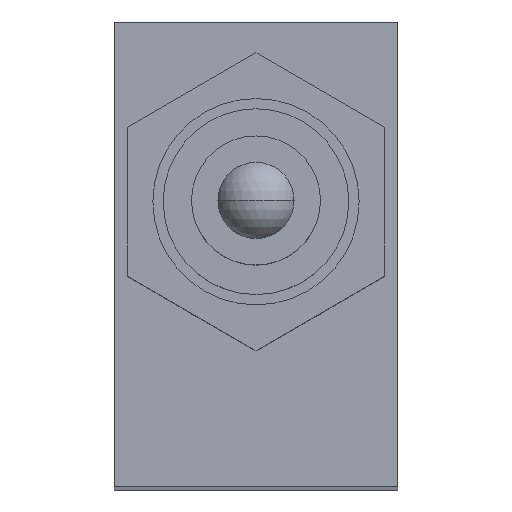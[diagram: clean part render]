
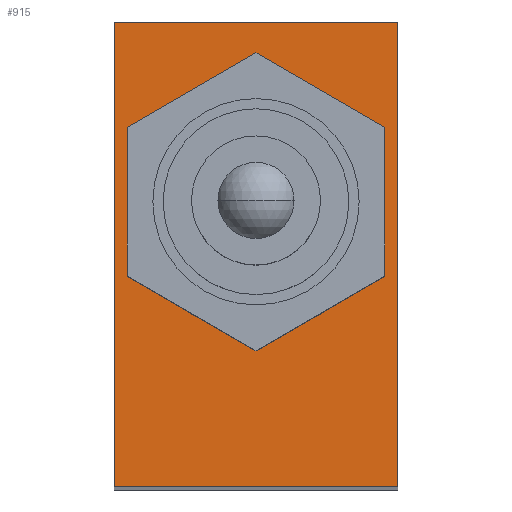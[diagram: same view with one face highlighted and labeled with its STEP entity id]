
A CAD part, top view. The second image highlights one B-rep face of the part: STEP entity #915.
In plain terms, the highlighted planar face has unit normal (0, 0, 1).
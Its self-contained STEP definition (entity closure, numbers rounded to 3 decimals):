
#18 = VERTEX_POINT ( 'NONE', #47 ) ;
#19 = VERTEX_POINT ( 'NONE', #49 ) ;
#25 = VERTEX_POINT ( 'NONE', #516 ) ;
#27 = VERTEX_POINT ( 'NONE', #588 ) ;
#47 = CARTESIAN_POINT ( 'NONE',  ( 5.5, 7., -48.5 ) ) ;
#49 = CARTESIAN_POINT ( 'NONE',  ( 5.5, -11., -48.5 ) ) ;
#181 = CARTESIAN_POINT ( 'NONE',  ( -5.5, 7., -48.5 ) ) ;
#182 = DIRECTION ( 'NONE',  ( 0., -1., 0. ) ) ;
#235 = EDGE_CURVE ( 'NONE', #515, #517, #1324, .T. ) ;
#251 = EDGE_CURVE ( 'NONE', #18, #27, #1336, .T. ) ;
#272 = EDGE_CURVE ( 'NONE', #18, #19, #1310, .T. ) ;
#275 = EDGE_CURVE ( 'NONE', #517, #515, #1234, .T. ) ;
#284 = EDGE_CURVE ( 'NONE', #19, #25, #1260, .T. ) ;
#312 = EDGE_CURVE ( 'NONE', #27, #25, #1142, .T. ) ;
#459 = CARTESIAN_POINT ( 'NONE',  ( 5., 0., -48.5 ) ) ;
#467 = CARTESIAN_POINT ( 'NONE',  ( -5., 0., -48.5 ) ) ;
#509 = PLANE ( 'NONE',  #1060 ) ;
#510 = CARTESIAN_POINT ( 'NONE',  ( 5.5, 7., -48.5 ) ) ;
#515 = VERTEX_POINT ( 'NONE', #467 ) ;
#516 = CARTESIAN_POINT ( 'NONE',  ( -5.5, -11., -48.5 ) ) ;
#517 = VERTEX_POINT ( 'NONE', #459 ) ;
#549 = CARTESIAN_POINT ( 'NONE',  ( 0., 0., -48.5 ) ) ;
#550 = DIRECTION ( 'NONE',  ( 0., 0., -1. ) ) ;
#551 = DIRECTION ( 'NONE',  ( -1., 0., 0. ) ) ;
#583 = CARTESIAN_POINT ( 'NONE',  ( 5.5, 7., -48.5 ) ) ;
#584 = DIRECTION ( 'NONE',  ( -1., 0., 0. ) ) ;
#588 = CARTESIAN_POINT ( 'NONE',  ( -5.5, 7., -48.5 ) ) ;
#784 = CARTESIAN_POINT ( 'NONE',  ( 0., 0., -48.5 ) ) ;
#789 = CARTESIAN_POINT ( 'NONE',  ( 5.5, 7., -48.5 ) ) ;
#790 = DIRECTION ( 'NONE',  ( 0., -1., 0. ) ) ;
#797 = DIRECTION ( 'NONE',  ( 0., 0., -1. ) ) ;
#798 = DIRECTION ( 'NONE',  ( -1., 0., 0. ) ) ;
#817 = CARTESIAN_POINT ( 'NONE',  ( 5.5, -11., -48.5 ) ) ;
#818 = DIRECTION ( 'NONE',  ( -1., 0., 0. ) ) ;
#824 = DIRECTION ( 'NONE',  ( 0., 0., -1. ) ) ;
#825 = DIRECTION ( 'NONE',  ( -1., 0., 0. ) ) ;
#915 = ADVANCED_FACE ( 'NONE', ( #1356, #1132 ), #509, .F. ) ;
#1060 = AXIS2_PLACEMENT_3D ( 'NONE', #510, #824, #825 ) ;
#1095 = AXIS2_PLACEMENT_3D ( 'NONE', #784, #797, #798 ) ;
#1104 = AXIS2_PLACEMENT_3D ( 'NONE', #549, #550, #551 ) ;
#1132 = FACE_BOUND ( 'NONE', #1504, .T. ) ;
#1134 = VECTOR ( 'NONE', #818, 1000. ) ;
#1142 = LINE ( 'NONE', #181, #1332 ) ;
#1234 = CIRCLE ( 'NONE', #1095, 5. ) ;
#1260 = LINE ( 'NONE', #817, #1134 ) ;
#1271 = VECTOR ( 'NONE', #790, 1000. ) ;
#1310 = LINE ( 'NONE', #789, #1271 ) ;
#1324 = CIRCLE ( 'NONE', #1104, 5. ) ;
#1332 = VECTOR ( 'NONE', #182, 1000. ) ;
#1336 = LINE ( 'NONE', #583, #1339 ) ;
#1339 = VECTOR ( 'NONE', #584, 1000. ) ;
#1356 = FACE_OUTER_BOUND ( 'NONE', #1473, .T. ) ;
#1473 = EDGE_LOOP ( 'NONE', ( #1585, #1586, #1634, #1574 ) ) ;
#1504 = EDGE_LOOP ( 'NONE', ( #1631, #1569 ) ) ;
#1569 = ORIENTED_EDGE ( 'NONE', *, *, #235, .T. ) ;
#1574 = ORIENTED_EDGE ( 'NONE', *, *, #251, .T. ) ;
#1585 = ORIENTED_EDGE ( 'NONE', *, *, #312, .T. ) ;
#1586 = ORIENTED_EDGE ( 'NONE', *, *, #284, .F. ) ;
#1631 = ORIENTED_EDGE ( 'NONE', *, *, #275, .T. ) ;
#1634 = ORIENTED_EDGE ( 'NONE', *, *, #272, .F. ) ;
